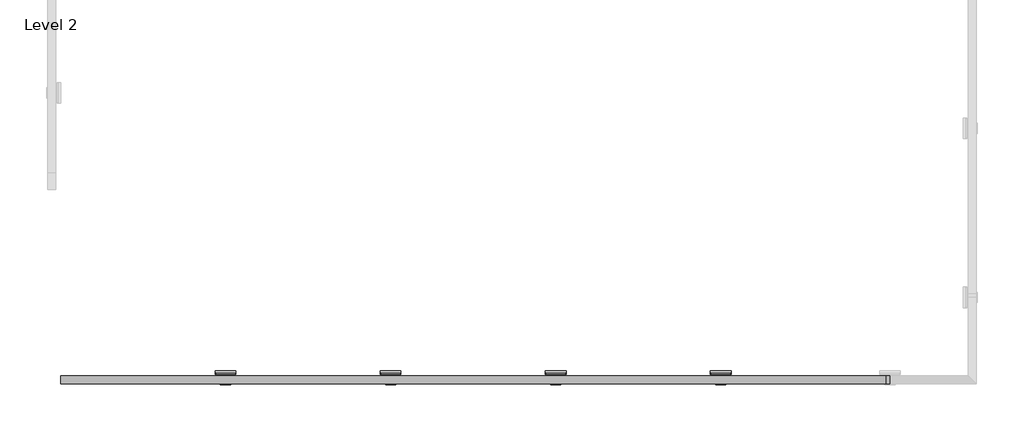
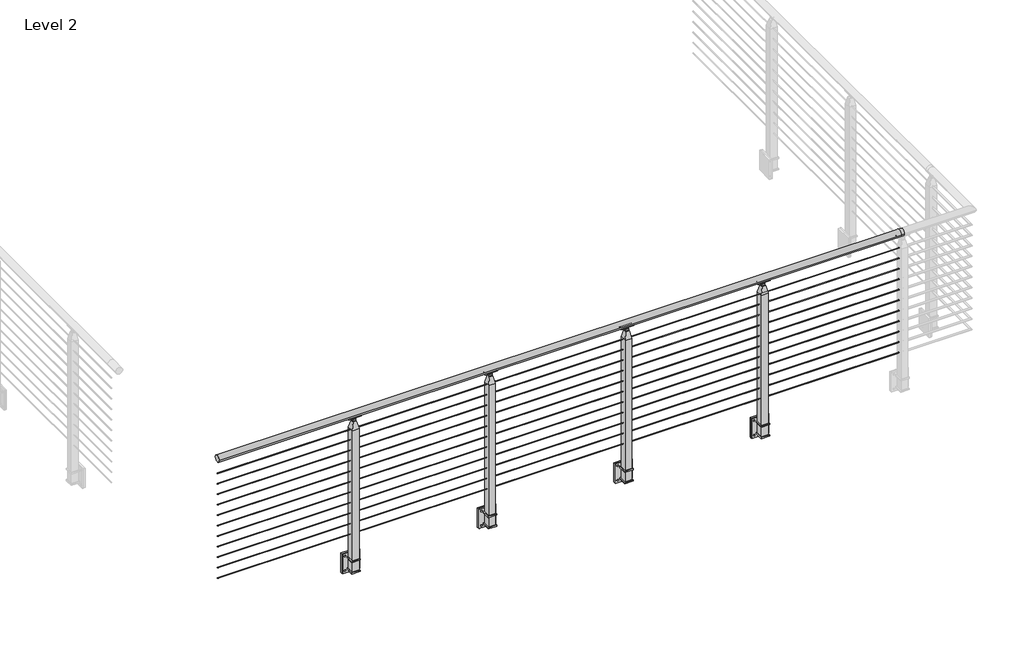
# One storey, part 2 of 17: 1 railing.
"""IFC4 building model written with IfcOpenShell, lengths in millimetres."""

from ifc_helpers import new_model, si_unit, point, frame, frame_2d, origin, place, context, project, spatial, polyline, circle_curve, trimmed, segment, composite_curve, outline, extrude, faceted_brep, element, save
from ifc_brep_helpers import plane_surface, cylinder_surface, revolved_surface, advanced_brep

model = new_model("IFC4")

# Units and contexts
model_context = context("Model", 3, world=origin())
ifc_project = project(units=[si_unit("LENGTHUNIT", "METRE", prefix="MILLI")], contexts=[model_context])

# Site, building, storey
site = spatial("IfcSite", under=ifc_project)
building = spatial("IfcBuilding", under=site)
storey = spatial("IfcBuildingStorey", under=building, Name="Level 2", Elevation=3048.0)

# Railing
placement = place(None, origin())
element("IfcRailing", 1, ObjectType="VIVA-CUBE-Cable-Fascia Mount-Straight", at=placement, inside=storey, context=model_context, shape_type="SolidModel", body=[
    advanced_brep(
    [(-9164.2569957, -52324.3556522, 4102.1), (-9164.2569957, -52273.5556522, 4102.1), (-4084.2569957, -52324.3556522, 4102.1), (-4084.2569957, -52273.5556522, 4102.1), (-4059.2538707, -52324.3556522, 4102.1), (-4059.2538707, -52273.5556522, 4102.1)],
    [
        (0, 1, circle_curve(frame((-9164.2569957, -52298.9556522, 4102.1), z_axis=(-1.0, 0.0, 0.0), x_axis=(0.0, 1.0, 0.0)), 25.4)),
        (1, 0, circle_curve(frame((-9164.2569957, -52298.9556522, 4102.1), z_axis=(-1.0, 0.0, 0.0), x_axis=(0.0, 1.0, 0.0)), 25.4)),
        (0, 2),
        (2, 3, circle_curve(frame((-4084.2569957, -52298.9556522, 4102.1), z_axis=(-1.0, 0.0, 0.0), x_axis=(0.0, 1.0, 0.0)), 25.4)),
        (3, 1),
        (3, 2, circle_curve(frame((-4084.2569957, -52298.9556522, 4102.1), z_axis=(-1.0, 0.0, 0.0), x_axis=(0.0, 1.0, 0.0)), 25.4)),
        (4, 5, circle_curve(frame((-4059.2538707, -52298.9556522, 4102.1), z_axis=(1.0, 0.0, 0.0), x_axis=(0.0, 1.0, 0.0)), 25.4)),
        (5, 4, circle_curve(frame((-4059.2538707, -52298.9556522, 4102.1), z_axis=(1.0, 0.0, 0.0), x_axis=(0.0, 1.0, 0.0)), 25.4)),
        (2, 4),
        (5, 3),
    ],
    [
        plane_surface(frame((-9164.2569957, -52298.9556522, 4127.5), z_axis=(-1.0, 0.0, 0.0), x_axis=(0.0, 1.0, 0.0))),
        cylinder_surface(frame((-9164.2569957, -52298.9556522, 4102.1), z_axis=(-1.0, 0.0, 0.0), x_axis=(0.0, 1.0, 0.0)), 25.4),
        plane_surface(frame((-4059.2538707, -52298.9556522, 4127.5), z_axis=(1.0, 0.0, 0.0), x_axis=(0.0, 1.0, 0.0))),
        cylinder_surface(frame((-4084.2569957, -52298.9556522, 4102.1), z_axis=(-1.0, 0.0, 0.0), x_axis=(0.0, 1.0, 0.0)), 25.4),
    ],
    [
        (0, [[1, 2]]),
        (1, [[-1, 3, 4, 5]]),
        (1, [[-2, -5, 6, -3]]),
        (2, [[7, 8]]),
        (3, [[-4, 9, -8, 10]]),
        (3, [[-6, -10, -7, -9]]),
    ],
),
    extrude(outline(composite_curve([segment(trimmed(circle_curve(frame_2d((-52298.9556522, 3985.4124)), 2.3876), [point((-52296.5680522, 3985.4124))], [point((-52301.3432522, 3985.4124))], False, "CARTESIAN"), True, "CONTINUOUS"), segment(trimmed(circle_curve(frame_2d((-52298.9556522, 3985.4124)), 2.3876), [point((-52301.3432522, 3985.4124))], [point((-52296.5680522, 3985.4124))], False, "CARTESIAN"), True, "CONTINUOUS")], self_intersect=False)), frame((-9164.2569957, 0.0, 0.0), z_axis=(1.0, 0.0, 0.0), x_axis=(0.0, 1.0, 0.0)), (0.0, 0.0, 1.0), 5080.0),
    extrude(outline(composite_curve([segment(trimmed(circle_curve(frame_2d((-52298.9556522, 3902.8624)), 2.3876), [point((-52296.5680522, 3902.8624))], [point((-52301.3432522, 3902.8624))], False, "CARTESIAN"), True, "CONTINUOUS"), segment(trimmed(circle_curve(frame_2d((-52298.9556522, 3902.8624)), 2.3876), [point((-52301.3432522, 3902.8624))], [point((-52296.5680522, 3902.8624))], False, "CARTESIAN"), True, "CONTINUOUS")], self_intersect=False)), frame((-9164.2569957, 0.0, 0.0), z_axis=(1.0, 0.0, 0.0), x_axis=(0.0, 1.0, 0.0)), (0.0, 0.0, 1.0), 5080.0),
    extrude(outline(composite_curve([segment(trimmed(circle_curve(frame_2d((-52298.9556522, 3820.3124)), 2.3876), [point((-52296.5680522, 3820.3124))], [point((-52301.3432522, 3820.3124))], False, "CARTESIAN"), True, "CONTINUOUS"), segment(trimmed(circle_curve(frame_2d((-52298.9556522, 3820.3124)), 2.3876), [point((-52301.3432522, 3820.3124))], [point((-52296.5680522, 3820.3124))], False, "CARTESIAN"), True, "CONTINUOUS")], self_intersect=False)), frame((-9164.2569957, 0.0, 0.0), z_axis=(1.0, 0.0, 0.0), x_axis=(0.0, 1.0, 0.0)), (0.0, 0.0, 1.0), 5080.0),
    extrude(outline(composite_curve([segment(trimmed(circle_curve(frame_2d((-52298.9556522, 3737.7624)), 2.3876), [point((-52296.5680522, 3737.7624))], [point((-52301.3432522, 3737.7624))], False, "CARTESIAN"), True, "CONTINUOUS"), segment(trimmed(circle_curve(frame_2d((-52298.9556522, 3737.7624)), 2.3876), [point((-52301.3432522, 3737.7624))], [point((-52296.5680522, 3737.7624))], False, "CARTESIAN"), True, "CONTINUOUS")], self_intersect=False)), frame((-9164.2569957, 0.0, 0.0), z_axis=(1.0, 0.0, 0.0), x_axis=(0.0, 1.0, 0.0)), (0.0, 0.0, 1.0), 5080.0),
    extrude(outline(composite_curve([segment(trimmed(circle_curve(frame_2d((-52298.9556522, 3655.2124)), 2.3876), [point((-52296.5680522, 3655.2124))], [point((-52301.3432522, 3655.2124))], False, "CARTESIAN"), True, "CONTINUOUS"), segment(trimmed(circle_curve(frame_2d((-52298.9556522, 3655.2124)), 2.3876), [point((-52301.3432522, 3655.2124))], [point((-52296.5680522, 3655.2124))], False, "CARTESIAN"), True, "CONTINUOUS")], self_intersect=False)), frame((-9164.2569957, 0.0, 0.0), z_axis=(1.0, 0.0, 0.0), x_axis=(0.0, 1.0, 0.0)), (0.0, 0.0, 1.0), 5080.0),
    extrude(outline(composite_curve([segment(trimmed(circle_curve(frame_2d((-52298.9556522, 3572.6624)), 2.3876), [point((-52296.5680522, 3572.6624))], [point((-52301.3432522, 3572.6624))], False, "CARTESIAN"), True, "CONTINUOUS"), segment(trimmed(circle_curve(frame_2d((-52298.9556522, 3572.6624)), 2.3876), [point((-52301.3432522, 3572.6624))], [point((-52296.5680522, 3572.6624))], False, "CARTESIAN"), True, "CONTINUOUS")], self_intersect=False)), frame((-9164.2569957, 0.0, 0.0), z_axis=(1.0, 0.0, 0.0), x_axis=(0.0, 1.0, 0.0)), (0.0, 0.0, 1.0), 5080.0),
    extrude(outline(composite_curve([segment(trimmed(circle_curve(frame_2d((-52298.9556522, 3490.1124)), 2.3876), [point((-52296.5680522, 3490.1124))], [point((-52301.3432522, 3490.1124))], False, "CARTESIAN"), True, "CONTINUOUS"), segment(trimmed(circle_curve(frame_2d((-52298.9556522, 3490.1124)), 2.3876), [point((-52301.3432522, 3490.1124))], [point((-52296.5680522, 3490.1124))], False, "CARTESIAN"), True, "CONTINUOUS")], self_intersect=False)), frame((-9164.2569957, 0.0, 0.0), z_axis=(1.0, 0.0, 0.0), x_axis=(0.0, 1.0, 0.0)), (0.0, 0.0, 1.0), 5080.0),
    extrude(outline(composite_curve([segment(trimmed(circle_curve(frame_2d((-52298.9556522, 3407.5624)), 2.3876), [point((-52296.5680522, 3407.5624))], [point((-52301.3432522, 3407.5624))], False, "CARTESIAN"), True, "CONTINUOUS"), segment(trimmed(circle_curve(frame_2d((-52298.9556522, 3407.5624)), 2.3876), [point((-52301.3432522, 3407.5624))], [point((-52296.5680522, 3407.5624))], False, "CARTESIAN"), True, "CONTINUOUS")], self_intersect=False)), frame((-9164.2569957, 0.0, 0.0), z_axis=(1.0, 0.0, 0.0), x_axis=(0.0, 1.0, 0.0)), (0.0, 0.0, 1.0), 5080.0),
    extrude(outline(composite_curve([segment(trimmed(circle_curve(frame_2d((-52298.9556522, 3325.0124)), 2.3876), [point((-52296.5680522, 3325.0124))], [point((-52301.3432522, 3325.0124))], False, "CARTESIAN"), True, "CONTINUOUS"), segment(trimmed(circle_curve(frame_2d((-52298.9556522, 3325.0124)), 2.3876), [point((-52301.3432522, 3325.0124))], [point((-52296.5680522, 3325.0124))], False, "CARTESIAN"), True, "CONTINUOUS")], self_intersect=False)), frame((-9164.2569957, 0.0, 0.0), z_axis=(1.0, 0.0, 0.0), x_axis=(0.0, 1.0, 0.0)), (0.0, 0.0, 1.0), 5080.0),
    extrude(outline(composite_curve([segment(trimmed(circle_curve(frame_2d((-52298.9556522, 3242.4624)), 2.3876), [point((-52296.5680522, 3242.4624))], [point((-52301.3432522, 3242.4624))], False, "CARTESIAN"), True, "CONTINUOUS"), segment(trimmed(circle_curve(frame_2d((-52298.9556522, 3242.4624)), 2.3876), [point((-52301.3432522, 3242.4624))], [point((-52296.5680522, 3242.4624))], False, "CARTESIAN"), True, "CONTINUOUS")], self_intersect=False)), frame((-9164.2569957, 0.0, 0.0), z_axis=(1.0, 0.0, 0.0), x_axis=(0.0, 1.0, 0.0)), (0.0, 0.0, 1.0), 5080.0),
    extrude(outline(composite_curve([segment(trimmed(circle_curve(frame_2d((-52298.9556522, 3159.9124)), 2.3876), [point((-52296.5680522, 3159.9124))], [point((-52301.3432522, 3159.9124))], False, "CARTESIAN"), True, "CONTINUOUS"), segment(trimmed(circle_curve(frame_2d((-52298.9556522, 3159.9124)), 2.3876), [point((-52301.3432522, 3159.9124))], [point((-52296.5680522, 3159.9124))], False, "CARTESIAN"), True, "CONTINUOUS")], self_intersect=False)), frame((-9164.2569957, 0.0, 0.0), z_axis=(1.0, 0.0, 0.0), x_axis=(0.0, 1.0, 0.0)), (0.0, 0.0, 1.0), 5080.0),
    extrude(outline(polyline([(-5036.3601207, -52244.4426165), (-5036.3601207, -52254.4248165), (-5163.3601207, -52254.4248165), (-5163.3601207, -52244.4426165), (-5036.3601207, -52244.4426165)])), frame((0.0, 0.0, 2838.45), z_axis=(0.0, 0.0, 1.0), x_axis=(1.0, 0.0, 0.0)), (0.0, 0.0, 1.0), 152.4),
    extrude(outline(composite_curve([segment(polyline([(2990.85, -5038.9001207), (2990.85, -5160.8201207)]), True, "CONTINUOUS"), segment(trimmed(circle_curve(frame_2d((2988.31, -5160.8201207)), 2.54), [point((2990.85, -5160.8201207))], [point((2988.31, -5163.3601207))], False, "CARTESIAN"), True, "CONTINUOUS"), segment(polyline([(2988.31, -5163.3601207), (2840.99, -5163.3601207)]), True, "CONTINUOUS"), segment(trimmed(circle_curve(frame_2d((2840.99, -5160.8201207)), 2.54), [point((2840.99, -5163.3601207))], [point((2838.45, -5160.8201207))], False, "CARTESIAN"), True, "CONTINUOUS"), segment(polyline([(2838.45, -5160.8201207), (2838.45, -5038.9001207)]), True, "CONTINUOUS"), segment(trimmed(circle_curve(frame_2d((2840.99, -5038.9001207)), 2.54), [point((2838.45, -5038.9001207))], [point((2840.99, -5036.3601207))], False, "CARTESIAN"), True, "CONTINUOUS"), segment(polyline([(2840.99, -5036.3601207), (2988.31, -5036.3601207)]), True, "CONTINUOUS"), segment(trimmed(circle_curve(frame_2d((2988.31, -5038.9001207)), 2.54), [point((2988.31, -5036.3601207))], [point((2990.85, -5038.9001207))], False, "CARTESIAN"), True, "CONTINUOUS")], self_intersect=False), holes=[composite_curve([segment(trimmed(circle_curve(frame_2d((2971.8, -5144.3101207)), 5.55625), [point((2971.8, -5138.7538707))], [point((2971.8, -5149.8663707))], True, "CARTESIAN"), True, "CONTINUOUS"), segment(trimmed(circle_curve(frame_2d((2971.8, -5144.3101207)), 5.55625), [point((2971.8, -5149.8663707))], [point((2971.8, -5138.7538707))], True, "CARTESIAN"), True, "CONTINUOUS")], self_intersect=False), composite_curve([segment(trimmed(circle_curve(frame_2d((2971.8, -5055.4101207)), 5.55625), [point((2971.8, -5049.8538707))], [point((2971.8, -5060.9663707))], True, "CARTESIAN"), True, "CONTINUOUS"), segment(trimmed(circle_curve(frame_2d((2971.8, -5055.4101207)), 5.55625), [point((2971.8, -5060.9663707))], [point((2971.8, -5049.8538707))], True, "CARTESIAN"), True, "CONTINUOUS")], self_intersect=False), composite_curve([segment(trimmed(circle_curve(frame_2d((2857.5, -5055.4101207)), 5.55625), [point((2857.5, -5049.8538707))], [point((2857.5, -5060.9663707))], True, "CARTESIAN"), True, "CONTINUOUS"), segment(trimmed(circle_curve(frame_2d((2857.5, -5055.4101207)), 5.55625), [point((2857.5, -5060.9663707))], [point((2857.5, -5049.8538707))], True, "CARTESIAN"), True, "CONTINUOUS")], self_intersect=False), composite_curve([segment(trimmed(circle_curve(frame_2d((2857.5, -5144.3101207)), 5.55625), [point((2857.5, -5138.7538707))], [point((2857.5, -5149.8663707))], True, "CARTESIAN"), True, "CONTINUOUS"), segment(trimmed(circle_curve(frame_2d((2857.5, -5144.3101207)), 5.55625), [point((2857.5, -5149.8663707))], [point((2857.5, -5138.7538707))], True, "CARTESIAN"), True, "CONTINUOUS")], self_intersect=False)]), frame((0.0, -52264.4070165, 0.0), z_axis=(0.0, 1.0, 0.0), x_axis=(0.0, 0.0, 1.0)), (0.0, 0.0, 1.0), 9.9822),
    extrude(outline(polyline([(-5131.6101207, -52254.4248165), (-5068.1101207, -52254.4248165), (-5068.1101207, -52330.7056522), (-5131.6101207, -52330.7056522), (-5131.6101207, -52254.4248165)])), frame((0.0, 0.0, 2865.4375), z_axis=(0.0, 0.0, 1.0), x_axis=(1.0, 0.0, 0.0)), (0.0, 0.0, 1.0), 9.5123),
    extrude(outline(polyline([(-5131.6101207, -52254.4248165), (-5068.1101207, -52254.4248165), (-5068.1101207, -52330.7056522), (-5131.6101207, -52330.7056522), (-5131.6101207, -52254.4248165)])), frame((0.0, 0.0, 2954.3375), z_axis=(0.0, 0.0, 1.0), x_axis=(1.0, 0.0, 0.0)), (0.0, 0.0, 1.0), 9.525),
    faceted_brep([(-5087.1601207, -52286.2556522, 4045.2902749), (-5112.5601207, -52286.2556522, 4045.2902749), (-5112.5601207, -52294.9869022, 4045.2902749), (-5087.1601207, -52294.9869022, 4045.2902749), (-5112.5601207, -52311.6556522, 4045.2902749), (-5087.1601207, -52311.6556522, 4045.2902749), (-5087.1601207, -52302.9244022, 4045.2902749), (-5112.5601207, -52302.9244022, 4045.2902749), (-5074.4601207, -52273.5556522, 3989.1347854), (-5074.4601207, -52324.3556522, 3989.1347854), (-5125.2601207, -52273.5556522, 3989.1347854), (-5125.2601207, -52324.3556522, 3989.1347854), (-5074.4601207, -52273.5556522, 2874.9498), (-5074.4601207, -52324.3556522, 2874.9498), (-5125.2601207, -52324.3556522, 2874.9498), (-5125.2601207, -52273.5556522, 2874.9498), (-5112.5601207, -52302.9244022, 4057.3306013), (-5087.1601207, -52302.9244022, 4057.3306013), (-5087.1601207, -52294.9869022, 4057.3306013), (-5112.5601207, -52294.9869022, 4057.3306013)], [[[0, 1, 2, 3]], [[4, 5, 6, 7]], [[8, 0, 3, 6, 5, 9]], [[1, 0, 8, 10]], [[1, 10, 11, 4, 7, 2]], [[5, 4, 11, 9]], [[12, 13, 14, 15]], [[12, 15, 10, 8]], [[15, 14, 11, 10]], [[14, 13, 9, 11]], [[13, 12, 8, 9]], [[16, 17, 18, 19]], [[17, 16, 7, 6]], [[18, 17, 6, 3]], [[19, 18, 3, 2]], [[16, 19, 2, 7]]]),
    extrude(outline(composite_curve([segment(trimmed(circle_curve(frame_2d((-52298.8589238, 4102.1433184)), 25.4345159), [point((-52311.4227267, 4080.0284941))], [point((-52286.46369, 4079.9335733))], True, "CARTESIAN"), True, "CONTINUOUS"), segment(trimmed(circle_curve(frame_2d((-52285.2190369, 4077.4310885)), 2.7949225), [point((-52286.46369, 4079.9335733))], [point((-52283.7417319, 4075.0585031))], False, "CARTESIAN"), True, "CONTINUOUS"), segment(trimmed(circle_curve(frame_2d((-52298.9923869, 4102.905945)), 31.75), [point((-52283.7417319, 4075.0585031))], [point((-52315.2586241, 4075.6392616))], False, "CARTESIAN"), True, "CONTINUOUS"), segment(trimmed(circle_curve(frame_2d((-52312.9702844, 4077.5101807)), 2.9558141), [point((-52315.2586241, 4075.6392616))], [point((-52311.4227267, 4080.0284941))], False, "CARTESIAN"), True, "CONTINUOUS")], self_intersect=False)), frame((-5145.0975207, 0.0, 0.0), z_axis=(1.0, 0.0, 0.0), x_axis=(0.0, 1.0, 0.0)), (0.0, 0.0, 1.0), 90.4748),
    advanced_brep(
    [(-5072.7922058, -52296.4156522, 4071.3685171), (-5087.1601207, -52296.4156522, 4057.0006022), (-5112.5601207, -52296.4156522, 4057.0006022), (-5126.9280356, -52296.4156522, 4071.3685171), (-5072.7922058, -52301.4956522, 4071.3685171), (-5126.9280356, -52301.4956522, 4071.3685171), (-5112.5601207, -52301.4956522, 4057.0006022), (-5087.1601207, -52301.4956522, 4057.0006022)],
    [
        (0, 1, circle_curve(frame((-5072.7922058, -52296.4156522, 4057.0006022), z_axis=(0.0, -1.0, 0.0), x_axis=(-1.0, 0.0, 0.0)), 14.3679149)),
        (1, 2, circle_curve(frame((-5099.8601207, -52296.4156522, 4057.0006022), z_axis=(0.0, 1.0, 0.0), x_axis=(-1.0, 0.0, 0.0)), 12.7)),
        (2, 3, circle_curve(frame((-5126.9280356, -52296.4156522, 4057.0006022), z_axis=(0.0, -1.0, 0.0), x_axis=(-1.0, 0.0, 0.0)), 14.3679149)),
        (3, 0),
        (4, 5),
        (5, 6, circle_curve(frame((-5126.9280356, -52301.4956522, 4057.0006022), z_axis=(0.0, 1.0, 0.0), x_axis=(-1.0, 0.0, 0.0)), 14.3679149)),
        (6, 7, circle_curve(frame((-5099.8601207, -52301.4956522, 4057.0006022), z_axis=(0.0, -1.0, 0.0), x_axis=(-1.0, 0.0, 0.0)), 12.7)),
        (7, 4, circle_curve(frame((-5072.7922058, -52301.4956522, 4057.0006022), z_axis=(0.0, 1.0, 0.0), x_axis=(-1.0, 0.0, 0.0)), 14.3679149)),
        (0, 4),
        (7, 1),
        (6, 2),
        (5, 3),
    ],
    [
        plane_surface(frame((-5087.1601207, -52296.4156522, 4057.0006022), z_axis=(0.0, 1.0, 0.0), x_axis=(0.0, 0.0, -1.0))),
        plane_surface(frame((-5087.1601207, -52301.4956522, 4057.0006022), z_axis=(0.0, -1.0, 0.0), x_axis=(0.0, 0.0, 1.0))),
        revolved_surface(polyline([(-5087.1601207, -52301.4956522, 4057.0006022), (-5087.1601207, -52296.4156522, 4057.0006022)]), (-5072.7922058, -52301.4956522, 4057.0006022), (0.0, -1.0, 0.0)),
        cylinder_surface(frame((-5099.8601207, -52301.4956522, 4057.0006022), z_axis=(0.0, 1.0, 0.0), x_axis=(-1.0, 0.0, 0.0)), 12.7),
        revolved_surface(polyline([(-5141.2959505, -52301.4956522, 4057.0006022), (-5141.2959505, -52296.4156522, 4057.0006022)]), (-5126.9280356, -52301.4956522, 4057.0006022), (0.0, -1.0, 0.0)),
        plane_surface(frame((-5126.9280356, -52296.4156522, 4071.3685171), z_axis=(0.0, 0.0, 1.0), x_axis=(0.0, -1.0, 0.0))),
    ],
    [
        (0, [[1, 2, 3, 4]]),
        (1, [[5, 6, 7, 8]]),
        (2, [[-1, 9, -8, 10]]),
        (3, [[-2, -10, -7, 11]]),
        (4, [[-3, -11, -6, 12]]),
        (5, [[-4, -12, -5, -9]]),
    ],
),
    extrude(outline(polyline([(-6052.3601207, -52244.4426165), (-6052.3601207, -52254.4248165), (-6179.3601207, -52254.4248165), (-6179.3601207, -52244.4426165), (-6052.3601207, -52244.4426165)])), frame((0.0, 0.0, 2838.45), z_axis=(0.0, 0.0, 1.0), x_axis=(1.0, 0.0, 0.0)), (0.0, 0.0, 1.0), 152.4),
    extrude(outline(composite_curve([segment(polyline([(2990.85, -6054.9001207), (2990.85, -6176.8201207)]), True, "CONTINUOUS"), segment(trimmed(circle_curve(frame_2d((2988.31, -6176.8201207)), 2.54), [point((2990.85, -6176.8201207))], [point((2988.31, -6179.3601207))], False, "CARTESIAN"), True, "CONTINUOUS"), segment(polyline([(2988.31, -6179.3601207), (2840.99, -6179.3601207)]), True, "CONTINUOUS"), segment(trimmed(circle_curve(frame_2d((2840.99, -6176.8201207)), 2.54), [point((2840.99, -6179.3601207))], [point((2838.45, -6176.8201207))], False, "CARTESIAN"), True, "CONTINUOUS"), segment(polyline([(2838.45, -6176.8201207), (2838.45, -6054.9001207)]), True, "CONTINUOUS"), segment(trimmed(circle_curve(frame_2d((2840.99, -6054.9001207)), 2.54), [point((2838.45, -6054.9001207))], [point((2840.99, -6052.3601207))], False, "CARTESIAN"), True, "CONTINUOUS"), segment(polyline([(2840.99, -6052.3601207), (2988.31, -6052.3601207)]), True, "CONTINUOUS"), segment(trimmed(circle_curve(frame_2d((2988.31, -6054.9001207)), 2.54), [point((2988.31, -6052.3601207))], [point((2990.85, -6054.9001207))], False, "CARTESIAN"), True, "CONTINUOUS")], self_intersect=False), holes=[composite_curve([segment(trimmed(circle_curve(frame_2d((2971.8, -6160.3101207)), 5.55625), [point((2971.8, -6154.7538707))], [point((2971.8, -6165.8663707))], True, "CARTESIAN"), True, "CONTINUOUS"), segment(trimmed(circle_curve(frame_2d((2971.8, -6160.3101207)), 5.55625), [point((2971.8, -6165.8663707))], [point((2971.8, -6154.7538707))], True, "CARTESIAN"), True, "CONTINUOUS")], self_intersect=False), composite_curve([segment(trimmed(circle_curve(frame_2d((2971.8, -6071.4101207)), 5.55625), [point((2971.8, -6065.8538707))], [point((2971.8, -6076.9663707))], True, "CARTESIAN"), True, "CONTINUOUS"), segment(trimmed(circle_curve(frame_2d((2971.8, -6071.4101207)), 5.55625), [point((2971.8, -6076.9663707))], [point((2971.8, -6065.8538707))], True, "CARTESIAN"), True, "CONTINUOUS")], self_intersect=False), composite_curve([segment(trimmed(circle_curve(frame_2d((2857.5, -6071.4101207)), 5.55625), [point((2857.5, -6065.8538707))], [point((2857.5, -6076.9663707))], True, "CARTESIAN"), True, "CONTINUOUS"), segment(trimmed(circle_curve(frame_2d((2857.5, -6071.4101207)), 5.55625), [point((2857.5, -6076.9663707))], [point((2857.5, -6065.8538707))], True, "CARTESIAN"), True, "CONTINUOUS")], self_intersect=False), composite_curve([segment(trimmed(circle_curve(frame_2d((2857.5, -6160.3101207)), 5.55625), [point((2857.5, -6154.7538707))], [point((2857.5, -6165.8663707))], True, "CARTESIAN"), True, "CONTINUOUS"), segment(trimmed(circle_curve(frame_2d((2857.5, -6160.3101207)), 5.55625), [point((2857.5, -6165.8663707))], [point((2857.5, -6154.7538707))], True, "CARTESIAN"), True, "CONTINUOUS")], self_intersect=False)]), frame((0.0, -52264.4070165, 0.0), z_axis=(0.0, 1.0, 0.0), x_axis=(0.0, 0.0, 1.0)), (0.0, 0.0, 1.0), 9.9822),
    extrude(outline(polyline([(-6147.6101207, -52254.4248165), (-6084.1101207, -52254.4248165), (-6084.1101207, -52330.7056522), (-6147.6101207, -52330.7056522), (-6147.6101207, -52254.4248165)])), frame((0.0, 0.0, 2865.4375), z_axis=(0.0, 0.0, 1.0), x_axis=(1.0, 0.0, 0.0)), (0.0, 0.0, 1.0), 9.5123),
    extrude(outline(polyline([(-6147.6101207, -52254.4248165), (-6084.1101207, -52254.4248165), (-6084.1101207, -52330.7056522), (-6147.6101207, -52330.7056522), (-6147.6101207, -52254.4248165)])), frame((0.0, 0.0, 2954.3375), z_axis=(0.0, 0.0, 1.0), x_axis=(1.0, 0.0, 0.0)), (0.0, 0.0, 1.0), 9.525),
    faceted_brep([(-6103.1601207, -52286.2556522, 4045.2902749), (-6128.5601207, -52286.2556522, 4045.2902749), (-6128.5601207, -52294.9869022, 4045.2902749), (-6103.1601207, -52294.9869022, 4045.2902749), (-6128.5601207, -52311.6556522, 4045.2902749), (-6103.1601207, -52311.6556522, 4045.2902749), (-6103.1601207, -52302.9244022, 4045.2902749), (-6128.5601207, -52302.9244022, 4045.2902749), (-6090.4601207, -52273.5556522, 3989.1347854), (-6090.4601207, -52324.3556522, 3989.1347854), (-6141.2601207, -52273.5556522, 3989.1347854), (-6141.2601207, -52324.3556522, 3989.1347854), (-6090.4601207, -52273.5556522, 2874.9498), (-6090.4601207, -52324.3556522, 2874.9498), (-6141.2601207, -52324.3556522, 2874.9498), (-6141.2601207, -52273.5556522, 2874.9498), (-6128.5601207, -52302.9244022, 4057.3306013), (-6103.1601207, -52302.9244022, 4057.3306013), (-6103.1601207, -52294.9869022, 4057.3306013), (-6128.5601207, -52294.9869022, 4057.3306013)], [[[0, 1, 2, 3]], [[4, 5, 6, 7]], [[8, 0, 3, 6, 5, 9]], [[1, 0, 8, 10]], [[1, 10, 11, 4, 7, 2]], [[5, 4, 11, 9]], [[12, 13, 14, 15]], [[12, 15, 10, 8]], [[15, 14, 11, 10]], [[14, 13, 9, 11]], [[13, 12, 8, 9]], [[16, 17, 18, 19]], [[17, 16, 7, 6]], [[18, 17, 6, 3]], [[19, 18, 3, 2]], [[16, 19, 2, 7]]]),
    extrude(outline(composite_curve([segment(trimmed(circle_curve(frame_2d((-52298.8589238, 4102.1433184)), 25.4345159), [point((-52311.4227267, 4080.0284941))], [point((-52286.46369, 4079.9335733))], True, "CARTESIAN"), True, "CONTINUOUS"), segment(trimmed(circle_curve(frame_2d((-52285.2190369, 4077.4310885)), 2.7949225), [point((-52286.46369, 4079.9335733))], [point((-52283.7417319, 4075.0585031))], False, "CARTESIAN"), True, "CONTINUOUS"), segment(trimmed(circle_curve(frame_2d((-52298.9923869, 4102.905945)), 31.75), [point((-52283.7417319, 4075.0585031))], [point((-52315.2586241, 4075.6392616))], False, "CARTESIAN"), True, "CONTINUOUS"), segment(trimmed(circle_curve(frame_2d((-52312.9702844, 4077.5101807)), 2.9558141), [point((-52315.2586241, 4075.6392616))], [point((-52311.4227267, 4080.0284941))], False, "CARTESIAN"), True, "CONTINUOUS")], self_intersect=False)), frame((-6161.0975207, 0.0, 0.0), z_axis=(1.0, 0.0, 0.0), x_axis=(0.0, 1.0, 0.0)), (0.0, 0.0, 1.0), 90.4748),
    advanced_brep(
    [(-6088.7922058, -52296.4156522, 4071.3685171), (-6103.1601207, -52296.4156522, 4057.0006022), (-6128.5601207, -52296.4156522, 4057.0006022), (-6142.9280356, -52296.4156522, 4071.3685171), (-6088.7922058, -52301.4956522, 4071.3685171), (-6142.9280356, -52301.4956522, 4071.3685171), (-6128.5601207, -52301.4956522, 4057.0006022), (-6103.1601207, -52301.4956522, 4057.0006022)],
    [
        (0, 1, circle_curve(frame((-6088.7922058, -52296.4156522, 4057.0006022), z_axis=(0.0, -1.0, 0.0), x_axis=(-1.0, 0.0, 0.0)), 14.3679149)),
        (1, 2, circle_curve(frame((-6115.8601207, -52296.4156522, 4057.0006022), z_axis=(0.0, 1.0, 0.0), x_axis=(-1.0, 0.0, 0.0)), 12.7)),
        (2, 3, circle_curve(frame((-6142.9280356, -52296.4156522, 4057.0006022), z_axis=(0.0, -1.0, 0.0), x_axis=(-1.0, 0.0, 0.0)), 14.3679149)),
        (3, 0),
        (4, 5),
        (5, 6, circle_curve(frame((-6142.9280356, -52301.4956522, 4057.0006022), z_axis=(0.0, 1.0, 0.0), x_axis=(-1.0, 0.0, 0.0)), 14.3679149)),
        (6, 7, circle_curve(frame((-6115.8601207, -52301.4956522, 4057.0006022), z_axis=(0.0, -1.0, 0.0), x_axis=(-1.0, 0.0, 0.0)), 12.7)),
        (7, 4, circle_curve(frame((-6088.7922058, -52301.4956522, 4057.0006022), z_axis=(0.0, 1.0, 0.0), x_axis=(-1.0, 0.0, 0.0)), 14.3679149)),
        (0, 4),
        (7, 1),
        (6, 2),
        (5, 3),
    ],
    [
        plane_surface(frame((-6103.1601207, -52296.4156522, 4057.0006022), z_axis=(0.0, 1.0, 0.0), x_axis=(0.0, 0.0, -1.0))),
        plane_surface(frame((-6103.1601207, -52301.4956522, 4057.0006022), z_axis=(0.0, -1.0, 0.0), x_axis=(0.0, 0.0, 1.0))),
        revolved_surface(polyline([(-6103.1601207, -52301.4956522, 4057.0006022), (-6103.1601207, -52296.4156522, 4057.0006022)]), (-6088.7922058, -52301.4956522, 4057.0006022), (0.0, -1.0, 0.0)),
        cylinder_surface(frame((-6115.8601207, -52301.4956522, 4057.0006022), z_axis=(0.0, 1.0, 0.0), x_axis=(-1.0, 0.0, 0.0)), 12.7),
        revolved_surface(polyline([(-6157.2959505, -52301.4956522, 4057.0006022), (-6157.2959505, -52296.4156522, 4057.0006022)]), (-6142.9280356, -52301.4956522, 4057.0006022), (0.0, -1.0, 0.0)),
        plane_surface(frame((-6142.9280356, -52296.4156522, 4071.3685171), z_axis=(0.0, 0.0, 1.0), x_axis=(0.0, -1.0, 0.0))),
    ],
    [
        (0, [[1, 2, 3, 4]]),
        (1, [[5, 6, 7, 8]]),
        (2, [[-1, 9, -8, 10]]),
        (3, [[-2, -10, -7, 11]]),
        (4, [[-3, -11, -6, 12]]),
        (5, [[-4, -12, -5, -9]]),
    ],
),
    extrude(outline(polyline([(-7068.3601207, -52244.4426165), (-7068.3601207, -52254.4248165), (-7195.3601207, -52254.4248165), (-7195.3601207, -52244.4426165), (-7068.3601207, -52244.4426165)])), frame((0.0, 0.0, 2838.45), z_axis=(0.0, 0.0, 1.0), x_axis=(1.0, 0.0, 0.0)), (0.0, 0.0, 1.0), 152.4),
    extrude(outline(composite_curve([segment(polyline([(2990.85, -7070.9001207), (2990.85, -7192.8201207)]), True, "CONTINUOUS"), segment(trimmed(circle_curve(frame_2d((2988.31, -7192.8201207)), 2.54), [point((2990.85, -7192.8201207))], [point((2988.31, -7195.3601207))], False, "CARTESIAN"), True, "CONTINUOUS"), segment(polyline([(2988.31, -7195.3601207), (2840.99, -7195.3601207)]), True, "CONTINUOUS"), segment(trimmed(circle_curve(frame_2d((2840.99, -7192.8201207)), 2.54), [point((2840.99, -7195.3601207))], [point((2838.45, -7192.8201207))], False, "CARTESIAN"), True, "CONTINUOUS"), segment(polyline([(2838.45, -7192.8201207), (2838.45, -7070.9001207)]), True, "CONTINUOUS"), segment(trimmed(circle_curve(frame_2d((2840.99, -7070.9001207)), 2.54), [point((2838.45, -7070.9001207))], [point((2840.99, -7068.3601207))], False, "CARTESIAN"), True, "CONTINUOUS"), segment(polyline([(2840.99, -7068.3601207), (2988.31, -7068.3601207)]), True, "CONTINUOUS"), segment(trimmed(circle_curve(frame_2d((2988.31, -7070.9001207)), 2.54), [point((2988.31, -7068.3601207))], [point((2990.85, -7070.9001207))], False, "CARTESIAN"), True, "CONTINUOUS")], self_intersect=False), holes=[composite_curve([segment(trimmed(circle_curve(frame_2d((2971.8, -7176.3101207)), 5.55625), [point((2971.8, -7170.7538707))], [point((2971.8, -7181.8663707))], True, "CARTESIAN"), True, "CONTINUOUS"), segment(trimmed(circle_curve(frame_2d((2971.8, -7176.3101207)), 5.55625), [point((2971.8, -7181.8663707))], [point((2971.8, -7170.7538707))], True, "CARTESIAN"), True, "CONTINUOUS")], self_intersect=False), composite_curve([segment(trimmed(circle_curve(frame_2d((2971.8, -7087.4101207)), 5.55625), [point((2971.8, -7081.8538707))], [point((2971.8, -7092.9663707))], True, "CARTESIAN"), True, "CONTINUOUS"), segment(trimmed(circle_curve(frame_2d((2971.8, -7087.4101207)), 5.55625), [point((2971.8, -7092.9663707))], [point((2971.8, -7081.8538707))], True, "CARTESIAN"), True, "CONTINUOUS")], self_intersect=False), composite_curve([segment(trimmed(circle_curve(frame_2d((2857.5, -7087.4101207)), 5.55625), [point((2857.5, -7081.8538707))], [point((2857.5, -7092.9663707))], True, "CARTESIAN"), True, "CONTINUOUS"), segment(trimmed(circle_curve(frame_2d((2857.5, -7087.4101207)), 5.55625), [point((2857.5, -7092.9663707))], [point((2857.5, -7081.8538707))], True, "CARTESIAN"), True, "CONTINUOUS")], self_intersect=False), composite_curve([segment(trimmed(circle_curve(frame_2d((2857.5, -7176.3101207)), 5.55625), [point((2857.5, -7170.7538707))], [point((2857.5, -7181.8663707))], True, "CARTESIAN"), True, "CONTINUOUS"), segment(trimmed(circle_curve(frame_2d((2857.5, -7176.3101207)), 5.55625), [point((2857.5, -7181.8663707))], [point((2857.5, -7170.7538707))], True, "CARTESIAN"), True, "CONTINUOUS")], self_intersect=False)]), frame((0.0, -52264.4070165, 0.0), z_axis=(0.0, 1.0, 0.0), x_axis=(0.0, 0.0, 1.0)), (0.0, 0.0, 1.0), 9.9822),
    extrude(outline(polyline([(-7163.6101207, -52254.4248165), (-7100.1101207, -52254.4248165), (-7100.1101207, -52330.7056522), (-7163.6101207, -52330.7056522), (-7163.6101207, -52254.4248165)])), frame((0.0, 0.0, 2865.4375), z_axis=(0.0, 0.0, 1.0), x_axis=(1.0, 0.0, 0.0)), (0.0, 0.0, 1.0), 9.5123),
    extrude(outline(polyline([(-7163.6101207, -52254.4248165), (-7100.1101207, -52254.4248165), (-7100.1101207, -52330.7056522), (-7163.6101207, -52330.7056522), (-7163.6101207, -52254.4248165)])), frame((0.0, 0.0, 2954.3375), z_axis=(0.0, 0.0, 1.0), x_axis=(1.0, 0.0, 0.0)), (0.0, 0.0, 1.0), 9.525),
    faceted_brep([(-7119.1601207, -52286.2556522, 4045.2902749), (-7144.5601207, -52286.2556522, 4045.2902749), (-7144.5601207, -52294.9869022, 4045.2902749), (-7119.1601207, -52294.9869022, 4045.2902749), (-7144.5601207, -52311.6556522, 4045.2902749), (-7119.1601207, -52311.6556522, 4045.2902749), (-7119.1601207, -52302.9244022, 4045.2902749), (-7144.5601207, -52302.9244022, 4045.2902749), (-7106.4601207, -52273.5556522, 3989.1347854), (-7106.4601207, -52324.3556522, 3989.1347854), (-7157.2601207, -52273.5556522, 3989.1347854), (-7157.2601207, -52324.3556522, 3989.1347854), (-7106.4601207, -52273.5556522, 2874.9498), (-7106.4601207, -52324.3556522, 2874.9498), (-7157.2601207, -52324.3556522, 2874.9498), (-7157.2601207, -52273.5556522, 2874.9498), (-7144.5601207, -52302.9244022, 4057.3306013), (-7119.1601207, -52302.9244022, 4057.3306013), (-7119.1601207, -52294.9869022, 4057.3306013), (-7144.5601207, -52294.9869022, 4057.3306013)], [[[0, 1, 2, 3]], [[4, 5, 6, 7]], [[8, 0, 3, 6, 5, 9]], [[1, 0, 8, 10]], [[1, 10, 11, 4, 7, 2]], [[5, 4, 11, 9]], [[12, 13, 14, 15]], [[12, 15, 10, 8]], [[15, 14, 11, 10]], [[14, 13, 9, 11]], [[13, 12, 8, 9]], [[16, 17, 18, 19]], [[17, 16, 7, 6]], [[18, 17, 6, 3]], [[19, 18, 3, 2]], [[16, 19, 2, 7]]]),
    extrude(outline(composite_curve([segment(trimmed(circle_curve(frame_2d((-52298.8589238, 4102.1433184)), 25.4345159), [point((-52311.4227267, 4080.0284941))], [point((-52286.46369, 4079.9335733))], True, "CARTESIAN"), True, "CONTINUOUS"), segment(trimmed(circle_curve(frame_2d((-52285.2190369, 4077.4310885)), 2.7949225), [point((-52286.46369, 4079.9335733))], [point((-52283.7417319, 4075.0585031))], False, "CARTESIAN"), True, "CONTINUOUS"), segment(trimmed(circle_curve(frame_2d((-52298.9923869, 4102.905945)), 31.75), [point((-52283.7417319, 4075.0585031))], [point((-52315.2586241, 4075.6392616))], False, "CARTESIAN"), True, "CONTINUOUS"), segment(trimmed(circle_curve(frame_2d((-52312.9702844, 4077.5101807)), 2.9558141), [point((-52315.2586241, 4075.6392616))], [point((-52311.4227267, 4080.0284941))], False, "CARTESIAN"), True, "CONTINUOUS")], self_intersect=False)), frame((-7177.0975207, 0.0, 0.0), z_axis=(1.0, 0.0, 0.0), x_axis=(0.0, 1.0, 0.0)), (0.0, 0.0, 1.0), 90.4748),
    advanced_brep(
    [(-7104.7922058, -52296.4156522, 4071.3685171), (-7119.1601207, -52296.4156522, 4057.0006022), (-7144.5601207, -52296.4156522, 4057.0006022), (-7158.9280356, -52296.4156522, 4071.3685171), (-7104.7922058, -52301.4956522, 4071.3685171), (-7158.9280356, -52301.4956522, 4071.3685171), (-7144.5601207, -52301.4956522, 4057.0006022), (-7119.1601207, -52301.4956522, 4057.0006022)],
    [
        (0, 1, circle_curve(frame((-7104.7922058, -52296.4156522, 4057.0006022), z_axis=(0.0, -1.0, 0.0), x_axis=(-1.0, 0.0, 0.0)), 14.3679149)),
        (1, 2, circle_curve(frame((-7131.8601207, -52296.4156522, 4057.0006022), z_axis=(0.0, 1.0, 0.0), x_axis=(-1.0, 0.0, 0.0)), 12.7)),
        (2, 3, circle_curve(frame((-7158.9280356, -52296.4156522, 4057.0006022), z_axis=(0.0, -1.0, 0.0), x_axis=(-1.0, 0.0, 0.0)), 14.3679149)),
        (3, 0),
        (4, 5),
        (5, 6, circle_curve(frame((-7158.9280356, -52301.4956522, 4057.0006022), z_axis=(0.0, 1.0, 0.0), x_axis=(-1.0, 0.0, 0.0)), 14.3679149)),
        (6, 7, circle_curve(frame((-7131.8601207, -52301.4956522, 4057.0006022), z_axis=(0.0, -1.0, 0.0), x_axis=(-1.0, 0.0, 0.0)), 12.7)),
        (7, 4, circle_curve(frame((-7104.7922058, -52301.4956522, 4057.0006022), z_axis=(0.0, 1.0, 0.0), x_axis=(-1.0, 0.0, 0.0)), 14.3679149)),
        (0, 4),
        (7, 1),
        (6, 2),
        (5, 3),
    ],
    [
        plane_surface(frame((-7119.1601207, -52296.4156522, 4057.0006022), z_axis=(0.0, 1.0, 0.0), x_axis=(0.0, 0.0, -1.0))),
        plane_surface(frame((-7119.1601207, -52301.4956522, 4057.0006022), z_axis=(0.0, -1.0, 0.0), x_axis=(0.0, 0.0, 1.0))),
        revolved_surface(polyline([(-7119.1601207, -52301.4956522, 4057.0006022), (-7119.1601207, -52296.4156522, 4057.0006022)]), (-7104.7922058, -52301.4956522, 4057.0006022), (0.0, -1.0, 0.0)),
        cylinder_surface(frame((-7131.8601207, -52301.4956522, 4057.0006022), z_axis=(0.0, 1.0, 0.0), x_axis=(-1.0, 0.0, 0.0)), 12.7),
        revolved_surface(polyline([(-7173.2959505, -52301.4956522, 4057.0006022), (-7173.2959505, -52296.4156522, 4057.0006022)]), (-7158.9280356, -52301.4956522, 4057.0006022), (0.0, -1.0, 0.0)),
        plane_surface(frame((-7158.9280356, -52296.4156522, 4071.3685171), z_axis=(0.0, 0.0, 1.0), x_axis=(0.0, -1.0, 0.0))),
    ],
    [
        (0, [[1, 2, 3, 4]]),
        (1, [[5, 6, 7, 8]]),
        (2, [[-1, 9, -8, 10]]),
        (3, [[-2, -10, -7, 11]]),
        (4, [[-3, -11, -6, 12]]),
        (5, [[-4, -12, -5, -9]]),
    ],
),
    extrude(outline(polyline([(-8084.3601207, -52244.4426165), (-8084.3601207, -52254.4248165), (-8211.3601207, -52254.4248165), (-8211.3601207, -52244.4426165), (-8084.3601207, -52244.4426165)])), frame((0.0, 0.0, 2838.45), z_axis=(0.0, 0.0, 1.0), x_axis=(1.0, 0.0, 0.0)), (0.0, 0.0, 1.0), 152.4),
    extrude(outline(composite_curve([segment(polyline([(2990.85, -8086.9001207), (2990.85, -8208.8201207)]), True, "CONTINUOUS"), segment(trimmed(circle_curve(frame_2d((2988.31, -8208.8201207)), 2.54), [point((2990.85, -8208.8201207))], [point((2988.31, -8211.3601207))], False, "CARTESIAN"), True, "CONTINUOUS"), segment(polyline([(2988.31, -8211.3601207), (2840.99, -8211.3601207)]), True, "CONTINUOUS"), segment(trimmed(circle_curve(frame_2d((2840.99, -8208.8201207)), 2.54), [point((2840.99, -8211.3601207))], [point((2838.45, -8208.8201207))], False, "CARTESIAN"), True, "CONTINUOUS"), segment(polyline([(2838.45, -8208.8201207), (2838.45, -8086.9001207)]), True, "CONTINUOUS"), segment(trimmed(circle_curve(frame_2d((2840.99, -8086.9001207)), 2.54), [point((2838.45, -8086.9001207))], [point((2840.99, -8084.3601207))], False, "CARTESIAN"), True, "CONTINUOUS"), segment(polyline([(2840.99, -8084.3601207), (2988.31, -8084.3601207)]), True, "CONTINUOUS"), segment(trimmed(circle_curve(frame_2d((2988.31, -8086.9001207)), 2.54), [point((2988.31, -8084.3601207))], [point((2990.85, -8086.9001207))], False, "CARTESIAN"), True, "CONTINUOUS")], self_intersect=False), holes=[composite_curve([segment(trimmed(circle_curve(frame_2d((2971.8, -8192.3101207)), 5.55625), [point((2971.8, -8186.7538707))], [point((2971.8, -8197.8663707))], True, "CARTESIAN"), True, "CONTINUOUS"), segment(trimmed(circle_curve(frame_2d((2971.8, -8192.3101207)), 5.55625), [point((2971.8, -8197.8663707))], [point((2971.8, -8186.7538707))], True, "CARTESIAN"), True, "CONTINUOUS")], self_intersect=False), composite_curve([segment(trimmed(circle_curve(frame_2d((2971.8, -8103.4101207)), 5.55625), [point((2971.8, -8097.8538707))], [point((2971.8, -8108.9663707))], True, "CARTESIAN"), True, "CONTINUOUS"), segment(trimmed(circle_curve(frame_2d((2971.8, -8103.4101207)), 5.55625), [point((2971.8, -8108.9663707))], [point((2971.8, -8097.8538707))], True, "CARTESIAN"), True, "CONTINUOUS")], self_intersect=False), composite_curve([segment(trimmed(circle_curve(frame_2d((2857.5, -8103.4101207)), 5.55625), [point((2857.5, -8097.8538707))], [point((2857.5, -8108.9663707))], True, "CARTESIAN"), True, "CONTINUOUS"), segment(trimmed(circle_curve(frame_2d((2857.5, -8103.4101207)), 5.55625), [point((2857.5, -8108.9663707))], [point((2857.5, -8097.8538707))], True, "CARTESIAN"), True, "CONTINUOUS")], self_intersect=False), composite_curve([segment(trimmed(circle_curve(frame_2d((2857.5, -8192.3101207)), 5.55625), [point((2857.5, -8186.7538707))], [point((2857.5, -8197.8663707))], True, "CARTESIAN"), True, "CONTINUOUS"), segment(trimmed(circle_curve(frame_2d((2857.5, -8192.3101207)), 5.55625), [point((2857.5, -8197.8663707))], [point((2857.5, -8186.7538707))], True, "CARTESIAN"), True, "CONTINUOUS")], self_intersect=False)]), frame((0.0, -52264.4070165, 0.0), z_axis=(0.0, 1.0, 0.0), x_axis=(0.0, 0.0, 1.0)), (0.0, 0.0, 1.0), 9.9822),
    extrude(outline(polyline([(-8179.6101207, -52254.4248165), (-8116.1101207, -52254.4248165), (-8116.1101207, -52330.7056522), (-8179.6101207, -52330.7056522), (-8179.6101207, -52254.4248165)])), frame((0.0, 0.0, 2865.4375), z_axis=(0.0, 0.0, 1.0), x_axis=(1.0, 0.0, 0.0)), (0.0, 0.0, 1.0), 9.5123),
    extrude(outline(polyline([(-8179.6101207, -52254.4248165), (-8116.1101207, -52254.4248165), (-8116.1101207, -52330.7056522), (-8179.6101207, -52330.7056522), (-8179.6101207, -52254.4248165)])), frame((0.0, 0.0, 2954.3375), z_axis=(0.0, 0.0, 1.0), x_axis=(1.0, 0.0, 0.0)), (0.0, 0.0, 1.0), 9.525),
    faceted_brep([(-8135.1601207, -52286.2556522, 4045.2902749), (-8160.5601207, -52286.2556522, 4045.2902749), (-8160.5601207, -52294.9869022, 4045.2902749), (-8135.1601207, -52294.9869022, 4045.2902749), (-8160.5601207, -52311.6556522, 4045.2902749), (-8135.1601207, -52311.6556522, 4045.2902749), (-8135.1601207, -52302.9244022, 4045.2902749), (-8160.5601207, -52302.9244022, 4045.2902749), (-8122.4601207, -52273.5556522, 3989.1347854), (-8122.4601207, -52324.3556522, 3989.1347854), (-8173.2601207, -52273.5556522, 3989.1347854), (-8173.2601207, -52324.3556522, 3989.1347854), (-8122.4601207, -52273.5556522, 2874.9498), (-8122.4601207, -52324.3556522, 2874.9498), (-8173.2601207, -52324.3556522, 2874.9498), (-8173.2601207, -52273.5556522, 2874.9498), (-8160.5601207, -52302.9244022, 4057.3306013), (-8135.1601207, -52302.9244022, 4057.3306013), (-8135.1601207, -52294.9869022, 4057.3306013), (-8160.5601207, -52294.9869022, 4057.3306013)], [[[0, 1, 2, 3]], [[4, 5, 6, 7]], [[8, 0, 3, 6, 5, 9]], [[1, 0, 8, 10]], [[1, 10, 11, 4, 7, 2]], [[5, 4, 11, 9]], [[12, 13, 14, 15]], [[12, 15, 10, 8]], [[15, 14, 11, 10]], [[14, 13, 9, 11]], [[13, 12, 8, 9]], [[16, 17, 18, 19]], [[17, 16, 7, 6]], [[18, 17, 6, 3]], [[19, 18, 3, 2]], [[16, 19, 2, 7]]]),
    extrude(outline(composite_curve([segment(trimmed(circle_curve(frame_2d((-52298.8589238, 4102.1433184)), 25.4345159), [point((-52311.4227267, 4080.0284941))], [point((-52286.46369, 4079.9335733))], True, "CARTESIAN"), True, "CONTINUOUS"), segment(trimmed(circle_curve(frame_2d((-52285.2190369, 4077.4310885)), 2.7949225), [point((-52286.46369, 4079.9335733))], [point((-52283.7417319, 4075.0585031))], False, "CARTESIAN"), True, "CONTINUOUS"), segment(trimmed(circle_curve(frame_2d((-52298.9923869, 4102.905945)), 31.75), [point((-52283.7417319, 4075.0585031))], [point((-52315.2586241, 4075.6392616))], False, "CARTESIAN"), True, "CONTINUOUS"), segment(trimmed(circle_curve(frame_2d((-52312.9702844, 4077.5101807)), 2.9558141), [point((-52315.2586241, 4075.6392616))], [point((-52311.4227267, 4080.0284941))], False, "CARTESIAN"), True, "CONTINUOUS")], self_intersect=False)), frame((-8193.0975207, 0.0, 0.0), z_axis=(1.0, 0.0, 0.0), x_axis=(0.0, 1.0, 0.0)), (0.0, 0.0, 1.0), 90.4748),
    advanced_brep(
    [(-8120.7922058, -52296.4156522, 4071.3685171), (-8135.1601207, -52296.4156522, 4057.0006022), (-8160.5601207, -52296.4156522, 4057.0006022), (-8174.9280356, -52296.4156522, 4071.3685171), (-8120.7922058, -52301.4956522, 4071.3685171), (-8174.9280356, -52301.4956522, 4071.3685171), (-8160.5601207, -52301.4956522, 4057.0006022), (-8135.1601207, -52301.4956522, 4057.0006022)],
    [
        (0, 1, circle_curve(frame((-8120.7922058, -52296.4156522, 4057.0006022), z_axis=(0.0, -1.0, 0.0), x_axis=(-1.0, 0.0, 0.0)), 14.3679149)),
        (1, 2, circle_curve(frame((-8147.8601207, -52296.4156522, 4057.0006022), z_axis=(0.0, 1.0, 0.0), x_axis=(-1.0, 0.0, 0.0)), 12.7)),
        (2, 3, circle_curve(frame((-8174.9280356, -52296.4156522, 4057.0006022), z_axis=(0.0, -1.0, 0.0), x_axis=(-1.0, 0.0, 0.0)), 14.3679149)),
        (3, 0),
        (4, 5),
        (5, 6, circle_curve(frame((-8174.9280356, -52301.4956522, 4057.0006022), z_axis=(0.0, 1.0, 0.0), x_axis=(-1.0, 0.0, 0.0)), 14.3679149)),
        (6, 7, circle_curve(frame((-8147.8601207, -52301.4956522, 4057.0006022), z_axis=(0.0, -1.0, 0.0), x_axis=(-1.0, 0.0, 0.0)), 12.7)),
        (7, 4, circle_curve(frame((-8120.7922058, -52301.4956522, 4057.0006022), z_axis=(0.0, 1.0, 0.0), x_axis=(-1.0, 0.0, 0.0)), 14.3679149)),
        (0, 4),
        (7, 1),
        (6, 2),
        (5, 3),
    ],
    [
        plane_surface(frame((-8135.1601207, -52296.4156522, 4057.0006022), z_axis=(0.0, 1.0, 0.0), x_axis=(0.0, 0.0, -1.0))),
        plane_surface(frame((-8135.1601207, -52301.4956522, 4057.0006022), z_axis=(0.0, -1.0, 0.0), x_axis=(0.0, 0.0, 1.0))),
        revolved_surface(polyline([(-8135.1601207, -52301.4956522, 4057.0006022), (-8135.1601207, -52296.4156522, 4057.0006022)]), (-8120.7922058, -52301.4956522, 4057.0006022), (0.0, -1.0, 0.0)),
        cylinder_surface(frame((-8147.8601207, -52301.4956522, 4057.0006022), z_axis=(0.0, 1.0, 0.0), x_axis=(-1.0, 0.0, 0.0)), 12.7),
        revolved_surface(polyline([(-8189.2959505, -52301.4956522, 4057.0006022), (-8189.2959505, -52296.4156522, 4057.0006022)]), (-8174.9280356, -52301.4956522, 4057.0006022), (0.0, -1.0, 0.0)),
        plane_surface(frame((-8174.9280356, -52296.4156522, 4071.3685171), z_axis=(0.0, 0.0, 1.0), x_axis=(0.0, -1.0, 0.0))),
    ],
    [
        (0, [[1, 2, 3, 4]]),
        (1, [[5, 6, 7, 8]]),
        (2, [[-1, 9, -8, 10]]),
        (3, [[-2, -10, -7, 11]]),
        (4, [[-3, -11, -6, 12]]),
        (5, [[-4, -12, -5, -9]]),
    ],
),
])

save(model, "model.ifc")
